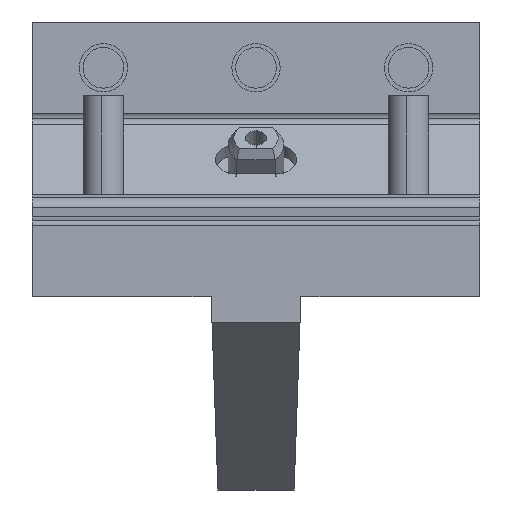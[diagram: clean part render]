
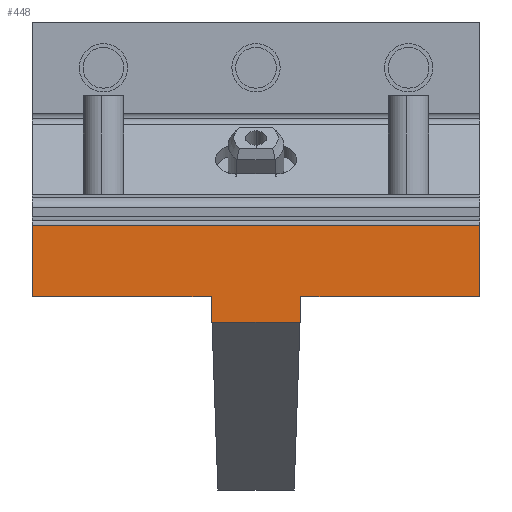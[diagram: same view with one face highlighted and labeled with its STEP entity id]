
A CAD part, front view. The second image highlights one B-rep face of the part: STEP entity #448.
In plain terms, the highlighted planar face has unit normal (0, -1, 0).
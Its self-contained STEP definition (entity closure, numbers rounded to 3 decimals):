
#448=ADVANCED_FACE('Solid.24',(#1047),#1048,.T.);
#1047=FACE_OUTER_BOUND('',#1860,.T.);
#1048=PLANE('',#1861);
#1860=EDGE_LOOP('',(#3016,#3017,#3018,#3019,#3020,#3021,#3022,#3023));
#1861=AXIS2_PLACEMENT_3D('',#3024,#3025,#3026);
#3016=ORIENTED_EDGE('',*,*,#4920,.T.);
#3017=ORIENTED_EDGE('',*,*,#4961,.T.);
#3018=ORIENTED_EDGE('',*,*,#4962,.T.);
#3019=ORIENTED_EDGE('',*,*,#4963,.T.);
#3020=ORIENTED_EDGE('',*,*,#4964,.T.);
#3021=ORIENTED_EDGE('',*,*,#4965,.F.);
#3022=ORIENTED_EDGE('',*,*,#4892,.F.);
#3023=ORIENTED_EDGE('',*,*,#4931,.T.);
#3024=CARTESIAN_POINT('',(0.0,-240.,-30.));
#3025=DIRECTION('',(0.0,-1.0,0.0));
#3026=DIRECTION('',(0.0,0.0,-1.0));
#4892=EDGE_CURVE('',#5933,#5935,#5936,.T.);
#4920=EDGE_CURVE('',#5985,#5983,#5986,.T.);
#4931=EDGE_CURVE('',#5933,#5985,#5999,.T.);
#4961=EDGE_CURVE('',#5983,#6043,#6044,.T.);
#4962=EDGE_CURVE('',#6043,#6045,#6046,.T.);
#4963=EDGE_CURVE('',#6045,#6047,#6048,.F.);
#4964=EDGE_CURVE('',#6047,#6049,#6050,.F.);
#4965=EDGE_CURVE('',#5935,#6049,#6051,.T.);
#5933=VERTEX_POINT('',#7306);
#5935=VERTEX_POINT('',#7309);
#5936=LINE('',#7310,#7311);
#5983=VERTEX_POINT('',#7378);
#5985=VERTEX_POINT('',#7381);
#5986=LINE('',#7382,#7383);
#5999=LINE('',#7400,#7401);
#6043=VERTEX_POINT('',#7445);
#6044=LINE('',#7446,#7447);
#6045=VERTEX_POINT('',#7448);
#6046=LINE('',#7449,#7450);
#6047=VERTEX_POINT('',#7451);
#6048=LINE('',#7452,#7453);
#6049=VERTEX_POINT('',#7454);
#6050=LINE('',#7455,#7456);
#6051=LINE('',#7457,#7458);
#7306=CARTESIAN_POINT('',(44.0,-240.,-31.));
#7309=CARTESIAN_POINT('',(44.0,-240.,-45.0));
#7310=CARTESIAN_POINT('',(44.0,-240.,-38.));
#7311=VECTOR('',#8883,1.0);
#7378=CARTESIAN_POINT('',(-44.0,-240.,-45.0));
#7381=CARTESIAN_POINT('',(-44.0,-240.,-31.));
#7382=CARTESIAN_POINT('',(-44.0,-240.,-38.));
#7383=VECTOR('',#8917,1.0);
#7400=CARTESIAN_POINT('',(0.0,-240.,-31.));
#7401=VECTOR('',#8928,1.0);
#7445=CARTESIAN_POINT('',(-8.827,-240.,-45.0));
#7446=CARTESIAN_POINT('',(-26.413,-240.,-45.0));
#7447=VECTOR('',#9013,1.0);
#7448=CARTESIAN_POINT('',(-8.652,-240.,-50.));
#7449=CARTESIAN_POINT('',(-8.74,-240.,-47.5));
#7450=VECTOR('',#9014,1.0);
#7451=CARTESIAN_POINT('',(8.652,-240.,-50.));
#7452=CARTESIAN_POINT('',(0.,-240.,-50.));
#7453=VECTOR('',#9015,1.0);
#7454=CARTESIAN_POINT('',(8.827,-240.,-45.0));
#7455=CARTESIAN_POINT('',(8.74,-240.,-47.5));
#7456=VECTOR('',#9016,1.0);
#7457=CARTESIAN_POINT('',(26.413,-240.,-45.0));
#7458=VECTOR('',#9017,1.0);
#8883=DIRECTION('',(0.0,0.0,-1.0));
#8917=DIRECTION('',(0.0,0.0,-1.0));
#8928=DIRECTION('',(-1.0,0.0,0.0));
#9013=DIRECTION('',(1.0,0.0,0.0));
#9014=DIRECTION('',(0.035,0.0,-0.999));
#9015=DIRECTION('',(-1.0,0.0,0.0));
#9016=DIRECTION('',(-0.035,0.0,-0.999));
#9017=DIRECTION('',(-1.0,0.0,0.0));
